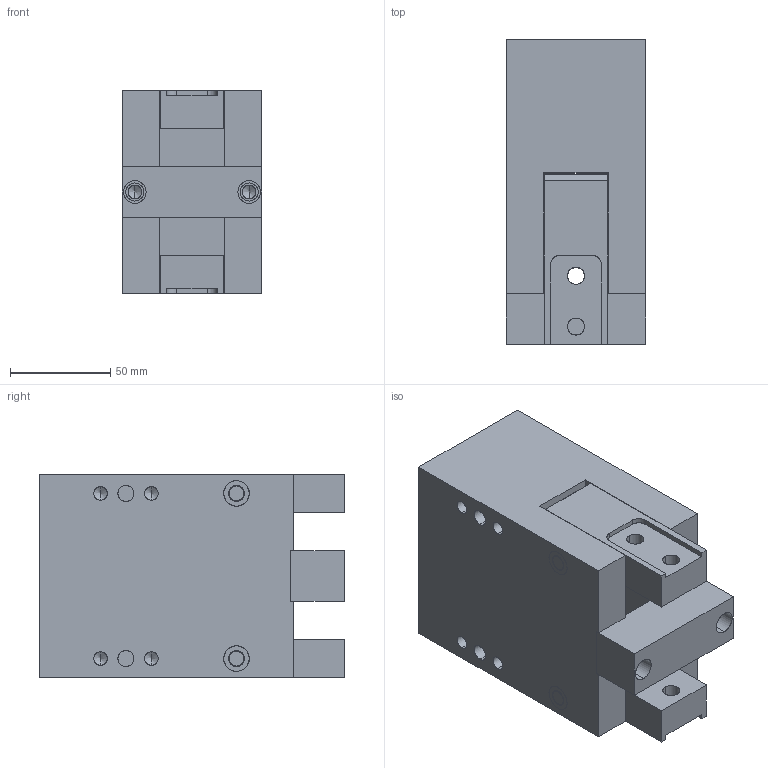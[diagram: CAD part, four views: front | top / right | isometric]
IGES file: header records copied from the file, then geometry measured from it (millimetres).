
Start section: SolidWorks IGES file using analytic representation for surfaces
Global section: file name: C:\Users\jmkuhnes\Pictures\AGA\AGA-50\AGA-50 CLOSED in IN.IGS; native system: SolidWorks 2013; preprocessor: SolidWorks 2013; author: jmkuhnes; date: 141103.144553; units: inch
Bounding box: 69.85 x 152.4 x 101.6 mm (x, y, z)
Surface area: 116475.4 mm2 (no closed solid volume)
Topology: 0 solids, 0 shells, 199 faces, 3406 edges, 3386 vertices
Faces by surface type: revolution 123, bspline 76
